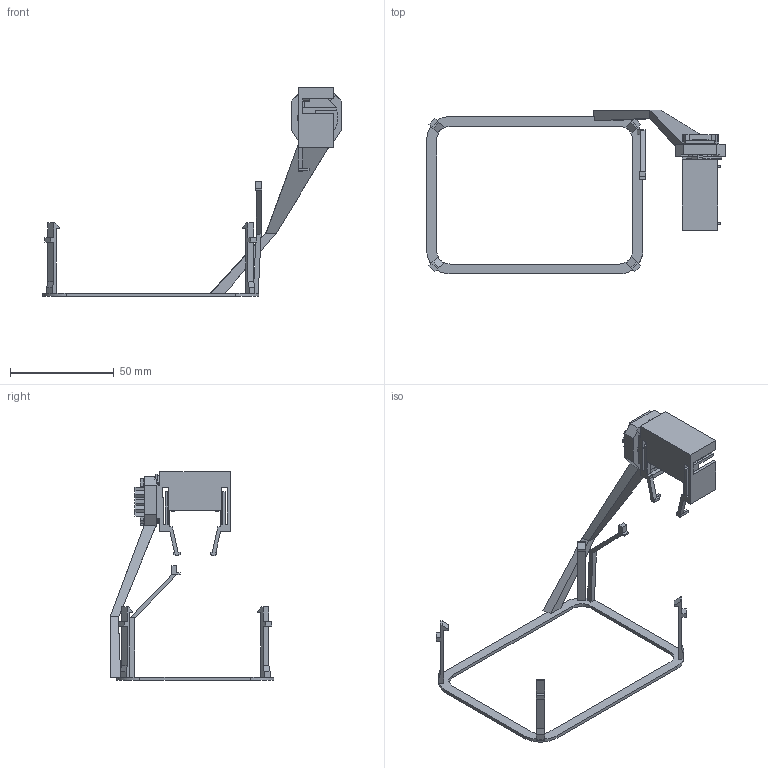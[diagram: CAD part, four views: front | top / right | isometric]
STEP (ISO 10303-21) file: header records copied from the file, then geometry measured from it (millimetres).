
FILE_DESCRIPTION(('Open CASCADE Model'),'2;1');
FILE_NAME('Open CASCADE Shape Model','2026-10-14T01:57:02',('Author'),( 'Open CASCADE'),'Open CASCADE STEP processor 8.0','build123d', 'Unknown');
FILE_SCHEMA(('AUTOMOTIVE_DESIGN { 1 0 10303 214 1 1 1 1 }'));
Length unit declared in the file: millimetre
Products named in the file (1): COMPOUND
Bounding box: 143.85 x 78.95 x 100.7 mm (x, y, z)
Volume: 15389.4 mm3; surface area: 17564.9 mm2
Topology: 3 solids, 3 shells, 545 faces, 1586 edges, 1052 vertices
Faces by surface type: plane 490, cylinder 41, bspline 14
Full cylindrical faces by diameter (mm): 2.6 x4, 4.4 x4, 12.9 x1
Entity records: 37647 total; most frequent: CARTESIAN_POINT 7869, DIRECTION 4862, LINE 3554, VECTOR 3554, ORIENTED_EDGE 3172, PCURVE 3172, DEFINITIONAL_REPRESENTATION 3172, EDGE_CURVE 1586
